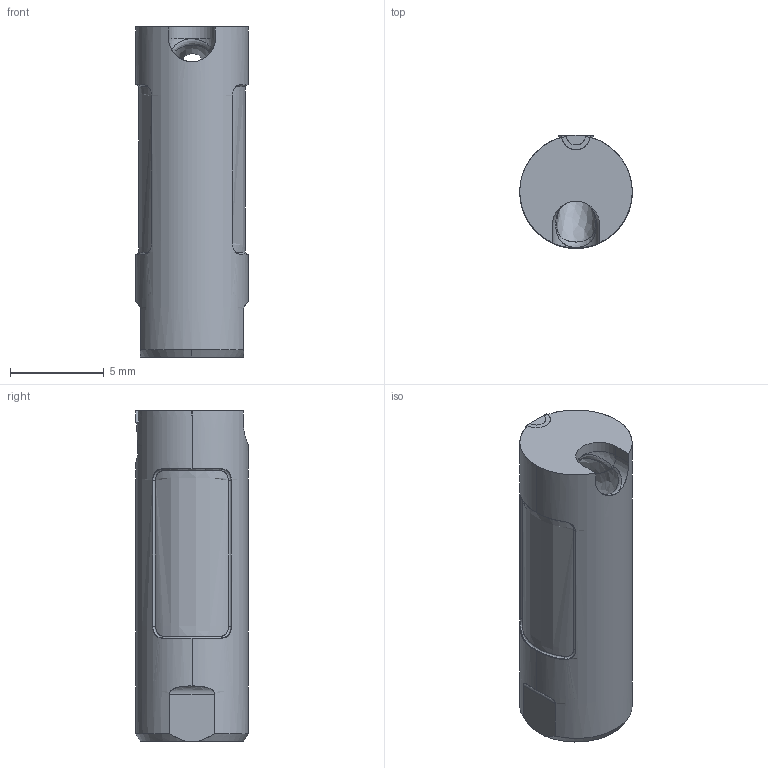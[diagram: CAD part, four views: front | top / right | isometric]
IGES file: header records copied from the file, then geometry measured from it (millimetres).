
Start section: START RECORD GO HERE.
Global section: file name: tgr6-06-s1.igs; native system: DASSAULT SYSTEMES CATIA V5 R20 - www.3ds.com; preprocessor: CATIA Version 5 Release 20 ; author: Utente; organization: NB04-ASUS; date: 20200417.224315; units: millimetre
Bounding box: 6 x 6 x 17.6 mm (x, y, z)
Surface area: 676.8 mm2 (no closed solid volume)
Topology: 0 solids, 0 shells, 83 faces, 556 edges, 551 vertices
Faces by surface type: revolution 46, bspline 20, plane 17
